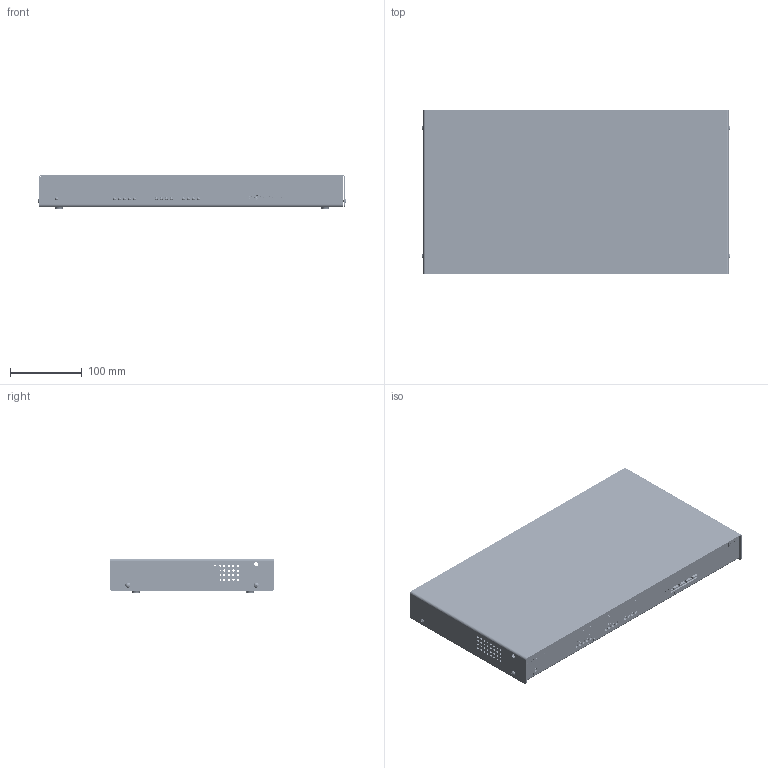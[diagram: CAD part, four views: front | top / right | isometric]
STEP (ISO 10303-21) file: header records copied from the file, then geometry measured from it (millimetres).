
FILE_DESCRIPTION(/* description */ (''),/* implementation_level */ '2;1');
FILE_NAME(/* name */ 'C:/Users/brook/OneDrive/Desktop/ECData/DMM-4/DMM-4.step',/* time_stamp */ '2022-08-18T10:44:49-04:00',/* author */ (''),/* organization */ (''),/* preprocessor_version */ 'ST-DEVELOPER v19',/* originating_system */ 'Autodesk Translation Framework v11.7.0.108',/* authorisation */ '');
FILE_SCHEMA (('AUTOMOTIVE_DESIGN { 1 0 10303 214 3 1 1 }'));
Products named in the file (36): Master Assembly; Base; FHS-632-8; 93090A210_Press-Fit Threaded Standoffs; CLS-832-2-PennEngineering-3D-06-03-2022; Power Supply; Power Supply XFMR; SSW-106-02-S-D-RA; _T1SSW-106-02-S-D-RA; _P2SSW-106-02-S-D-RA; 713005; PCB; 710001; 713025; 713025_1; 713025_2; 713025_3; 713025_4; K22X(HT)-B25S-N_rA3(rA2); TSM-106-02-L-DH-A; _TSM-106-02-DH-A_body; _T-1S6-09(-02-6-DH); 708002; 708002_1; 708002_2; 708002_3; P:/E-Switch Secure/3D_MODELS_STP_FORMAT/PBH2UxxNAGX.stp; 710003; 702002; 702001 ; Component1; 4-40 x 1/4" Screw; 715000; 715001; 107012; 715018
Assembly tree (88 placements, depth 4):
  Master Assembly
    Base
      93090A210_Press-Fit Threaded Standoffs  x7
      FHS-632-8
      CLS-832-2-PennEngineering-3D-06-03-2022  x4
    Power Supply
      710001
      Power Supply XFMR
      SSW-106-02-S-D-RA
        _T1SSW-106-02-S-D-RA
        _P2SSW-106-02-S-D-RA
      713005  x5
    PCB
      710001  x9
      713025
        K22X(HT)-B25S-N_rA3(rA2)
      713025_1
        K22X(HT)-B25S-N_rA3(rA2)
      713025_2
        K22X(HT)-B25S-N_rA3(rA2)
      713025_3
        K22X(HT)-B25S-N_rA3(rA2)
      713025_4
        K22X(HT)-B25S-N_rA3(rA2)
      TSM-106-02-L-DH-A
        _TSM-106-02-DH-A_body
        _T-1S6-09(-02-6-DH)
      708002
        P:/E-Switch Secure/3D_MODELS_STP_FORMAT/PBH2UxxNAGX.stp
      708002_1
        P:/E-Switch Secure/3D_MODELS_STP_FORMAT/PBH2UxxNAGX.stp
      708002_2
        P:/E-Switch Secure/3D_MODELS_STP_FORMAT/PBH2UxxNAGX.stp
      708002_3
        P:/E-Switch Secure/3D_MODELS_STP_FORMAT/PBH2UxxNAGX.stp
      710003  x4
    702002
    702001 
      Component1
    4-40 x 1/4" Screw  x7
    715000  x10
    715001  x4
    107012
    715018  x4
Bounding box: 430.28 x 228.6 x 47.98 mm (x, y, z)
Volume: 586365.3 mm3; surface area: 693058 mm2
Topology: 119 solids, 123 shells, 13672 faces, 36459 edges, 23728 vertices
Faces by surface type: plane 8040, bspline 2979, cylinder 2022, cone 340, torus 221, sphere 70
Full cylindrical faces by diameter (mm): 0.885 x1, 0.925 x1, 1.15 x125, 1.333 x5, 1.4 x2, 1.575 x2, 1.982 x1, 2.02 x112, 2.271 x20, 2.35 x10, 2.474 x32, 2.6 x3, 2.845 x132, 2.91 x1, 3 x3, 3.1 x12, 3.175 x78, 3.307 x4, 3.454 x16, 3.505 x36, 3.556 x17, 4.1 x10, 4.191 x7, 4.216 x7, 4.45 x14, 4.75 x18, 5.385 x6, 5.41 x4, 5.436 x14, 5.563 x7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
Entity records: 342711 total; most frequent: CARTESIAN_POINT 124078, ORIENTED_EDGE 49728, DIRECTION 33715, EDGE_CURVE 24864, LINE 16565, VECTOR 16565, VERTEX_POINT 16316, EDGE_LOOP 10138
